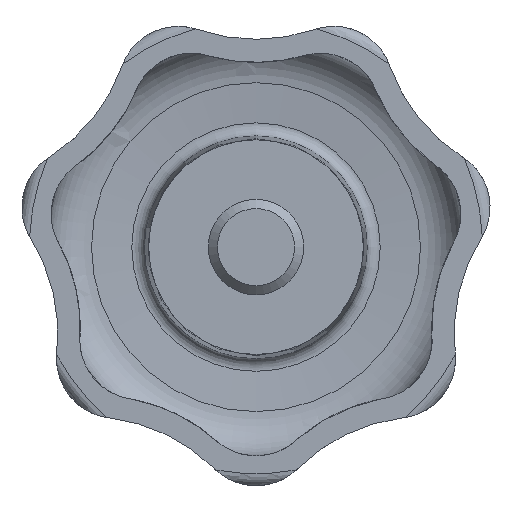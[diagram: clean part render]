
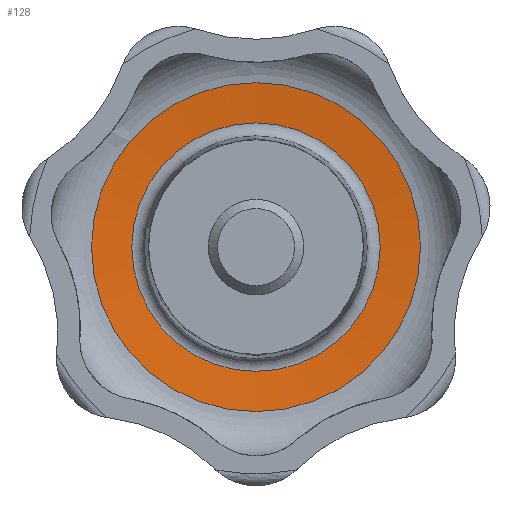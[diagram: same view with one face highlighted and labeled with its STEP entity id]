
A CAD part, front view. The second image highlights one B-rep face of the part: STEP entity #128.
In plain terms, the highlighted conical face has half-angle 85 degrees and reference radius 13.793 mm.
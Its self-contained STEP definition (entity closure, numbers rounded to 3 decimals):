
#128 = ADVANCED_FACE( '', ( #265, #266 ), #267, .F. );
#265 = FACE_BOUND( '', #423, .T. );
#266 = FACE_OUTER_BOUND( '', #424, .T. );
#267 = CONICAL_SURFACE( '', #425, 13.793, 1.484 );
#423 = EDGE_LOOP( '', ( #938 ) );
#424 = EDGE_LOOP( '', ( #939 ) );
#425 = AXIS2_PLACEMENT_3D( '', #940, #941, #942 );
#938 = ORIENTED_EDGE( '', *, *, #1269, .F. );
#939 = ORIENTED_EDGE( '', *, *, #1121, .T. );
#940 = CARTESIAN_POINT( '', ( 0., 19.611, 0. ) );
#941 = DIRECTION( '', ( 0., -1., 0. ) );
#942 = DIRECTION( '', ( 0., 0., -1. ) );
#1121 = EDGE_CURVE( '', #1355, #1355, #1356, .T. );
#1269 = EDGE_CURVE( '', #1599, #1599, #1600, .T. );
#1355 = VERTEX_POINT( '', #1957 );
#1356 = CIRCLE( '', #1958, 13.793 );
#1599 = VERTEX_POINT( '', #2955 );
#1600 = CIRCLE( '', #2956, 10.417 );
#1957 = CARTESIAN_POINT( '', ( 0., 19.611, -13.793 ) );
#1958 = AXIS2_PLACEMENT_3D( '', #3056, #3057, #3058 );
#2955 = CARTESIAN_POINT( '', ( 0., 19.907, -10.417 ) );
#2956 = AXIS2_PLACEMENT_3D( '', #3304, #3305, #3306 );
#3056 = CARTESIAN_POINT( '', ( 0., 19.611, 0. ) );
#3057 = DIRECTION( '', ( 0., -1., 0. ) );
#3058 = DIRECTION( '', ( 0., 0., -1. ) );
#3304 = CARTESIAN_POINT( '', ( 0., 19.907, 0. ) );
#3305 = DIRECTION( '', ( 0., -1., 0. ) );
#3306 = DIRECTION( '', ( 0., 0., -1. ) );
